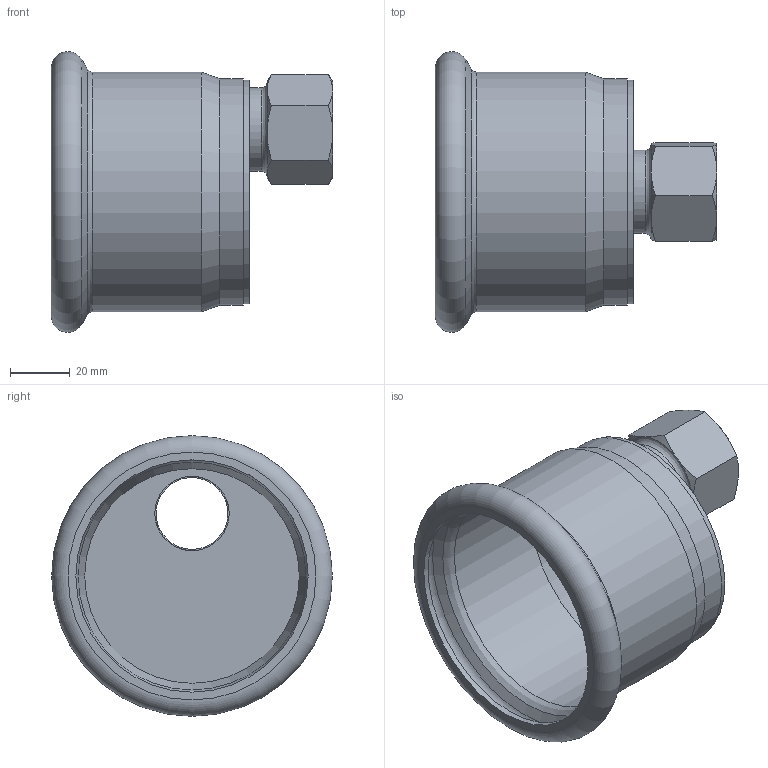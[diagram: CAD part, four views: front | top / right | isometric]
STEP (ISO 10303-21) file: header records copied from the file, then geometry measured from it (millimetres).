
FILE_DESCRIPTION((''),'2;1');
FILE_NAME('G:\Nirosan-Schmiedefeld\Technics\CAD\001 Serie 9.000\076\69301e7634h(1).stp','2018-10-16T11:02:39',('herberg'),(''),'Autodesk Inventor 2009','Autodesk Inventor 2009','');
FILE_SCHEMA(('AUTOMOTIVE_DESIGN { 1 0 10303 214 1 1 1 1 }'));
Length unit declared in the file: millimetre
Products named in the file (4): 69301e7634h(1); 69HM76P(0); 69KAME7634p(1); IG2834(1)
Assembly tree (3 placements, depth 2):
  69301e7634h(1)
    69HM76P(0)
    69KAME7634p(1)
    IG2834(1)
Bounding box: 94.5 x 94.3 x 94.3 mm (x, y, z)
Volume: 54316.7 mm3; surface area: 51602.1 mm2
Topology: 3 solids, 3 shells, 46 faces, 93 edges, 55 vertices
Faces by surface type: cone 17, plane 13, cylinder 7, bspline 7, torus 2
Full cylindrical faces by diameter (mm): 28 x1, 72.1 x1, 75 x1, 76.1 x1, 76.6 x1, 78 x1, 80.6 x1
Entity records: 1318 total; most frequent: CARTESIAN_POINT 407, DIRECTION 176, ORIENTED_EDGE 138, AXIS2_PLACEMENT_3D 85, EDGE_LOOP 74, EDGE_CURVE 69, VERTEX_POINT 51, FACE_OUTER_BOUND 46
